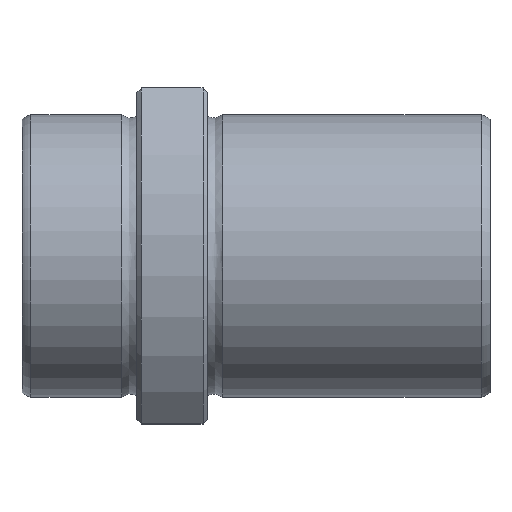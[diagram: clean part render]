
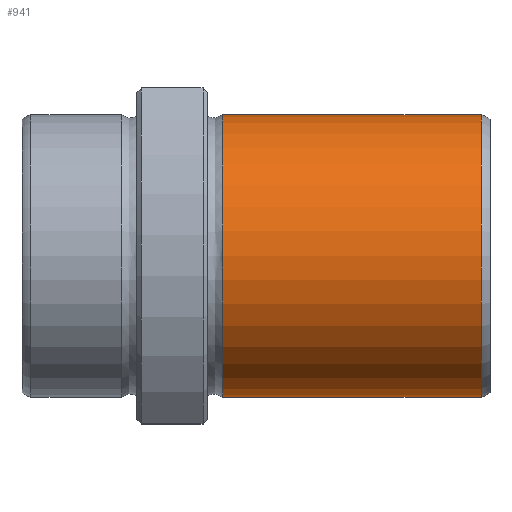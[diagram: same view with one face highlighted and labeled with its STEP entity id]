
A CAD part, top view. The second image highlights one B-rep face of the part: STEP entity #941.
In plain terms, the highlighted cylindrical face has radius 16 mm (diameter 32 mm), a full revolution.
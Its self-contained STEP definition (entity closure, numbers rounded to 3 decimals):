
#907=CARTESIAN_POINT('',(51.999,0.0,16.));
#908=VERTEX_POINT('',#907);
#909=CARTESIAN_POINT('',(51.999,0.0,0.0));
#910=DIRECTION('',(-1.0,0.0,0.0));
#911=DIRECTION('',(0.0,0.0,1.0));
#912=AXIS2_PLACEMENT_3D('',#909,#910,#911);
#913=CIRCLE('',#912,16.);
#914=EDGE_CURVE('',#908,#908,#913,.T.);
#922=CARTESIAN_POINT('',(37.359,0.0,0.0));
#923=DIRECTION('',(-1.0,0.0,0.0));
#924=DIRECTION('',(0.0,0.0,1.0));
#925=AXIS2_PLACEMENT_3D('',#922,#923,#924);
#926=CYLINDRICAL_SURFACE('',#925,16.);
#927=CARTESIAN_POINT('',(22.72,0.0,16.));
#928=VERTEX_POINT('',#927);
#929=CARTESIAN_POINT('',(22.72,0.0,0.0));
#930=DIRECTION('',(-1.0,0.0,0.0));
#931=DIRECTION('',(0.0,0.0,1.0));
#932=AXIS2_PLACEMENT_3D('',#929,#930,#931);
#933=CIRCLE('',#932,16.);
#934=EDGE_CURVE('',#928,#928,#933,.T.);
#935=ORIENTED_EDGE('',*,*,#934,.F.);
#936=EDGE_LOOP('',(#935));
#937=FACE_OUTER_BOUND('',#936,.T.);
#938=ORIENTED_EDGE('',*,*,#914,.T.);
#939=EDGE_LOOP('',(#938));
#940=FACE_BOUND('',#939,.T.);
#941=ADVANCED_FACE('',(#937,#940),#926,.T.);
